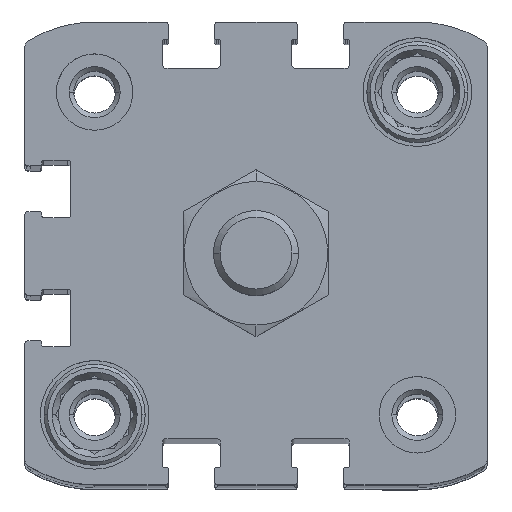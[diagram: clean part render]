
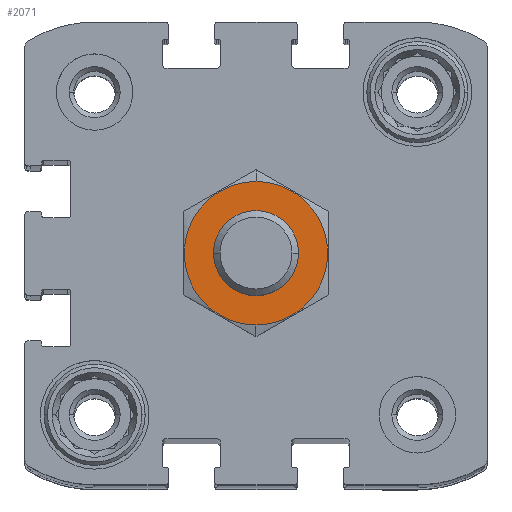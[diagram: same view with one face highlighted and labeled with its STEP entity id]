
A CAD part, top view. The second image highlights one B-rep face of the part: STEP entity #2071.
In plain terms, the highlighted planar face has unit normal (0, 0, 1) as drawn and (0, 1, 0) by its records, which use the part's own axes.
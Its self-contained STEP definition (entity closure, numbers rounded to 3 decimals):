
#227 = VERTEX_POINT ( 'NONE', #1212 ) ;
#343 = DIRECTION ( 'NONE',  ( 0., 0., 1. ) ) ;
#386 = DIRECTION ( 'NONE',  ( 0., 1., 0. ) ) ;
#407 = VERTEX_POINT ( 'NONE', #8173 ) ;
#410 = VERTEX_POINT ( 'NONE', #7923 ) ;
#421 = CARTESIAN_POINT ( 'NONE',  ( 0., 0., 0. ) ) ;
#761 = CARTESIAN_POINT ( 'NONE',  ( 0., 0., -8.45 ) ) ;
#1057 = FACE_BOUND ( 'NONE', #7086, .T. ) ;
#1205 = ORIENTED_EDGE ( 'NONE', *, *, #11260, .F. ) ;
#1212 = CARTESIAN_POINT ( 'NONE',  ( 0., 0., 5. ) ) ;
#1568 = EDGE_CURVE ( 'NONE', #227, #407, #8494, .T. ) ;
#1656 = CARTESIAN_POINT ( 'NONE',  ( 0., 0., 0. ) ) ;
#1894 = ORIENTED_EDGE ( 'NONE', *, *, #1568, .F. ) ;
#2071 = ADVANCED_FACE ( 'NONE', ( #1057, #7665 ), #6751, .F. ) ;
#2866 = AXIS2_PLACEMENT_3D ( 'NONE', #1656, #10378, #2893 ) ;
#2893 = DIRECTION ( 'NONE',  ( 0., 0., -1. ) ) ;
#3054 = AXIS2_PLACEMENT_3D ( 'NONE', #5004, #13814, #6254 ) ;
#3460 = AXIS2_PLACEMENT_3D ( 'NONE', #421, #386, #343 ) ;
#4945 = DIRECTION ( 'NONE',  ( 0., -1., 0. ) ) ;
#5004 = CARTESIAN_POINT ( 'NONE',  ( 0., 0., 0. ) ) ;
#5196 = CIRCLE ( 'NONE', #9123, 8.45 ) ;
#5416 = ORIENTED_EDGE ( 'NONE', *, *, #9946, .F. ) ;
#5699 = DIRECTION ( 'NONE',  ( 0., 0., -1. ) ) ;
#5754 = DIRECTION ( 'NONE',  ( 0., -1., 0. ) ) ;
#6193 = CARTESIAN_POINT ( 'NONE',  ( 0., 0., 0. ) ) ;
#6254 = DIRECTION ( 'NONE',  ( 0., 0., 1. ) ) ;
#6751 = PLANE ( 'NONE',  #14928 ) ;
#7086 = EDGE_LOOP ( 'NONE', ( #1894, #1205 ) ) ;
#7665 = FACE_OUTER_BOUND ( 'NONE', #14202, .T. ) ;
#7923 = CARTESIAN_POINT ( 'NONE',  ( 0., 0., 8.45 ) ) ;
#8173 = CARTESIAN_POINT ( 'NONE',  ( 0., 0., -5. ) ) ;
#8494 = CIRCLE ( 'NONE', #3460, 5. ) ;
#8856 = CIRCLE ( 'NONE', #2866, 8.45 ) ;
#9123 = AXIS2_PLACEMENT_3D ( 'NONE', #12485, #4945, #13738 ) ;
#9946 = EDGE_CURVE ( 'NONE', #410, #12093, #5196, .T. ) ;
#10378 = DIRECTION ( 'NONE',  ( 0., -1., 0. ) ) ;
#11260 = EDGE_CURVE ( 'NONE', #407, #227, #14594, .T. ) ;
#12093 = VERTEX_POINT ( 'NONE', #761 ) ;
#12485 = CARTESIAN_POINT ( 'NONE',  ( 0., 0., 0. ) ) ;
#12808 = EDGE_CURVE ( 'NONE', #12093, #410, #8856, .T. ) ;
#13296 = ORIENTED_EDGE ( 'NONE', *, *, #12808, .F. ) ;
#13738 = DIRECTION ( 'NONE',  ( 0., 0., -1. ) ) ;
#13814 = DIRECTION ( 'NONE',  ( 0., 1., 0. ) ) ;
#14202 = EDGE_LOOP ( 'NONE', ( #13296, #5416 ) ) ;
#14594 = CIRCLE ( 'NONE', #3054, 5. ) ;
#14928 = AXIS2_PLACEMENT_3D ( 'NONE', #6193, #5754, #5699 ) ;
